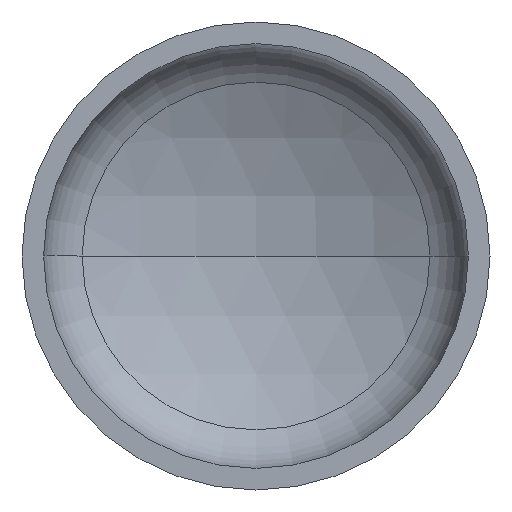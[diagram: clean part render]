
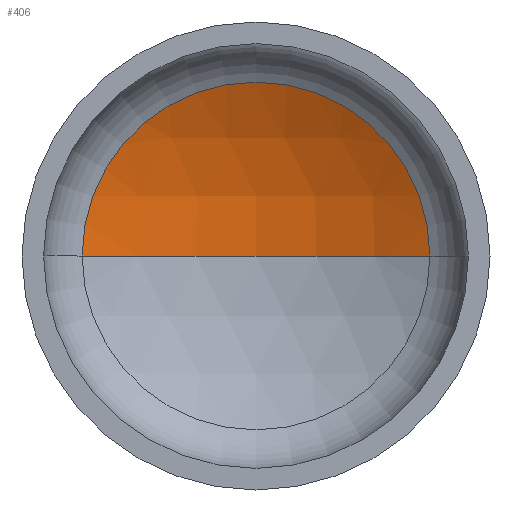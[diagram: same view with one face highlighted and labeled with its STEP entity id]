
A CAD part, front view. The second image highlights one B-rep face of the part: STEP entity #406.
In plain terms, the highlighted spherical face has radius 1040 mm.
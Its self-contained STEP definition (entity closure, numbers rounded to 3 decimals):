
#2 = VERTEX_POINT ( 'NONE', #266 ) ;
#7 = CARTESIAN_POINT ( 'NONE',  ( 0., -623.976, 0. ) ) ;
#11 = EDGE_LOOP ( 'NONE', ( #83, #81, #23 ) ) ;
#23 = ORIENTED_EDGE ( 'NONE', *, *, #89, .T. ) ;
#32 = CARTESIAN_POINT ( 'NONE',  ( -482.857, 297.137, 0. ) ) ;
#38 = AXIS2_PLACEMENT_3D ( 'NONE', #7, #260, #208 ) ;
#40 = AXIS2_PLACEMENT_3D ( 'NONE', #204, #205, #184 ) ;
#42 = AXIS2_PLACEMENT_3D ( 'NONE', #232, #216, #214 ) ;
#43 = CIRCLE ( 'NONE', #40, 1040. ) ;
#73 = VERTEX_POINT ( 'NONE', #246 ) ;
#81 = ORIENTED_EDGE ( 'NONE', *, *, #92, .T. ) ;
#83 = ORIENTED_EDGE ( 'NONE', *, *, #93, .F. ) ;
#89 = EDGE_CURVE ( 'NONE', #73, #111, #257, .T. ) ;
#92 = EDGE_CURVE ( 'NONE', #2, #73, #43, .T. ) ;
#93 = EDGE_CURVE ( 'NONE', #2, #111, #372, .T. ) ;
#111 = VERTEX_POINT ( 'NONE', #32 ) ;
#184 = DIRECTION ( 'NONE',  ( -1., 0., 0. ) ) ;
#197 = FACE_OUTER_BOUND ( 'NONE', #11, .T. ) ;
#204 = CARTESIAN_POINT ( 'NONE',  ( 0., -623.976, 0. ) ) ;
#205 = DIRECTION ( 'NONE',  ( 0., 0., -1. ) ) ;
#208 = DIRECTION ( 'NONE',  ( 1., 0., 0. ) ) ;
#214 = DIRECTION ( 'NONE',  ( 1., 0., 0. ) ) ;
#216 = DIRECTION ( 'NONE',  ( 0., -1., 0. ) ) ;
#218 = DIRECTION ( 'NONE',  ( -1., 0., 0. ) ) ;
#221 = DIRECTION ( 'NONE',  ( 0., 0., -1. ) ) ;
#232 = CARTESIAN_POINT ( 'NONE',  ( 0., 297.137, 0. ) ) ;
#246 = CARTESIAN_POINT ( 'NONE',  ( 482.857, 297.137, 0. ) ) ;
#257 = CIRCLE ( 'NONE', #42, 482.857 ) ;
#260 = DIRECTION ( 'NONE',  ( 0., 0., 1. ) ) ;
#261 = SPHERICAL_SURFACE ( 'NONE', #297, 1040. ) ;
#266 = CARTESIAN_POINT ( 'NONE',  ( 0., 416.024, 0. ) ) ;
#297 = AXIS2_PLACEMENT_3D ( 'NONE', #401, #221, #218 ) ;
#372 = CIRCLE ( 'NONE', #38, 1040. ) ;
#401 = CARTESIAN_POINT ( 'NONE',  ( 0., -623.976, 0. ) ) ;
#406 = ADVANCED_FACE ( 'NONE', ( #197 ), #261, .F. ) ;
